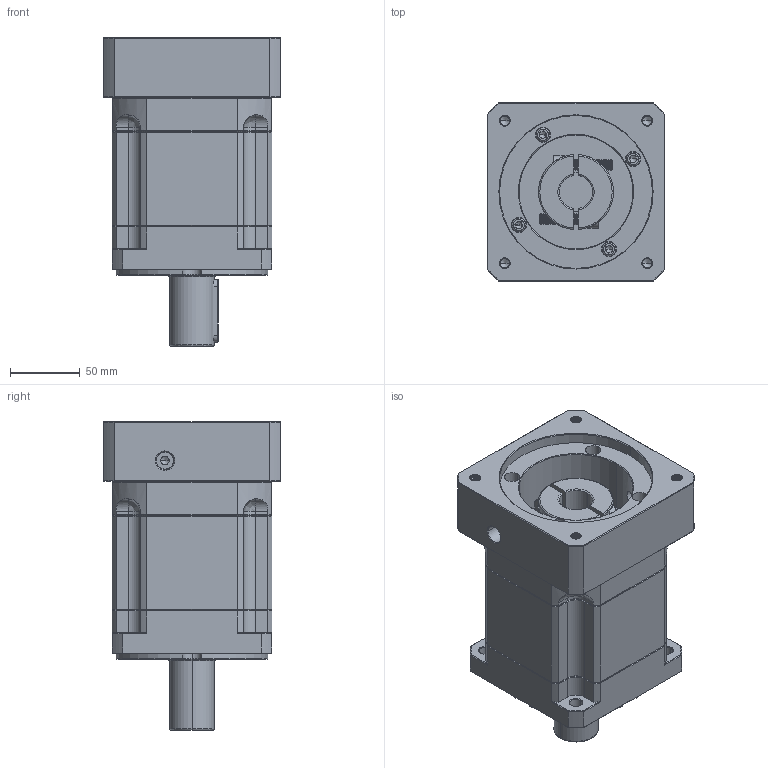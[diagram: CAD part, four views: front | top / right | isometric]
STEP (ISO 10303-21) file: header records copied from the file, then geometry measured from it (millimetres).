
FILE_DESCRIPTION (( 'STEP AP214' ), '1' );
FILE_NAME ('ZB115A-D32-L2-24-110-145-M8.step', '2023-03-02T09:01:28', ( '' ), ( 'Microsoft' ), 'SwSTEP 2.0', 'SolidWorks 2016', '' );
FILE_SCHEMA (( 'AUTOMOTIVE_DESIGN' ));
Length unit declared in the file: millimetre
Products named in the file (1): ZB115A-D32-L2-24-110-145-M8
Bounding box: 128 x 128 x 222 mm (x, y, z)
Volume: 1956830.9 mm3; surface area: 190911.2 mm2
Topology: 6 solids, 6 shells, 2113 faces, 5450 edges, 3431 vertices
Faces by surface type: plane 963, cylinder 439, cone 366, bspline 325, torus 20
Entity records: 113081 total; most frequent: CARTESIAN_POINT 41291, ORIENTED_EDGE 10832, DIRECTION 8885, EDGE_CURVE 5416, VERTEX_POINT 3431, VECTOR 3371, LINE 3371, AXIS2_PLACEMENT_3D 2757
